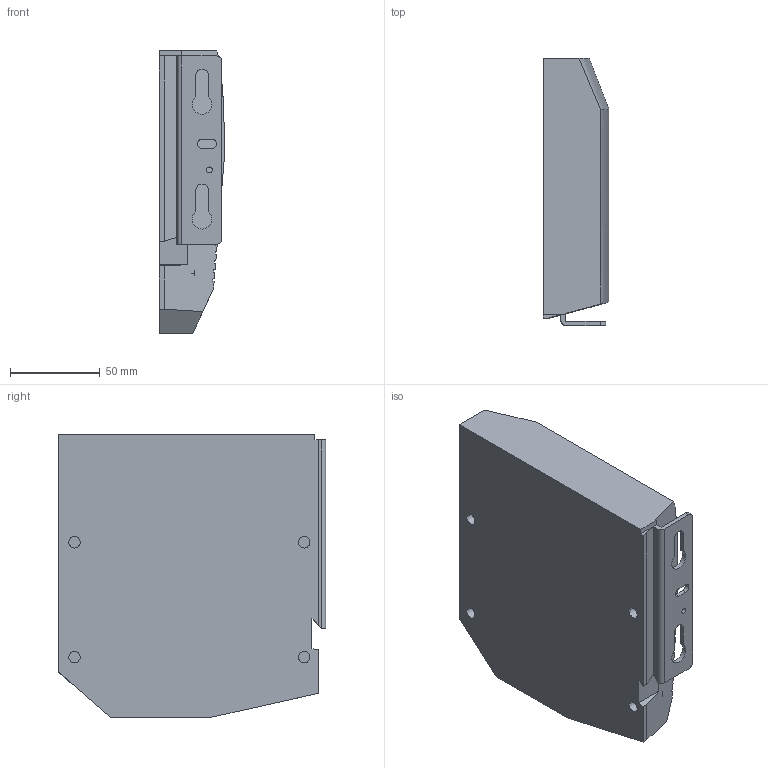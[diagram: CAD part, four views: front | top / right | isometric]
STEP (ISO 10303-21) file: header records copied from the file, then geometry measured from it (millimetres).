
FILE_DESCRIPTION (( 'STEP AP203' ), '1' );
FILE_NAME ('Kinvaro_T-70_links_D2712003325~0.step', '2012-05-04T06:48:27', ( 'admin' ), ( 'Hewlett-Packard Company' ), 'SwSTEP 2.0', 'SolidWorks 2011', '' );
FILE_SCHEMA (( 'CONFIG_CONTROL_DESIGN' ));
Length unit declared in the file: millimetre
Products named in the file (1): Kinvaro_T-70_links_D2712003325~0
Bounding box: 36.77 x 149 x 157.62 mm (x, y, z)
Volume: 692584.6 mm3; surface area: 68671.1 mm2
Topology: 1 solids, 1 shells, 126 faces, 355 edges, 235 vertices
Faces by surface type: plane 103, cylinder 21, bspline 2
Entity records: 4337 total; most frequent: CARTESIAN_POINT 956, ORIENTED_EDGE 710, DIRECTION 642, EDGE_CURVE 355, LINE 308, VECTOR 308, VERTEX_POINT 235, AXIS2_PLACEMENT_3D 167
